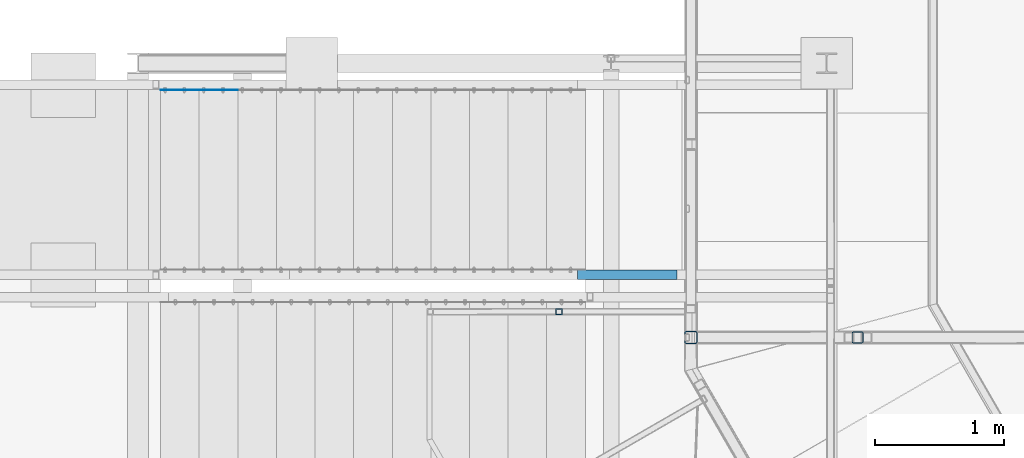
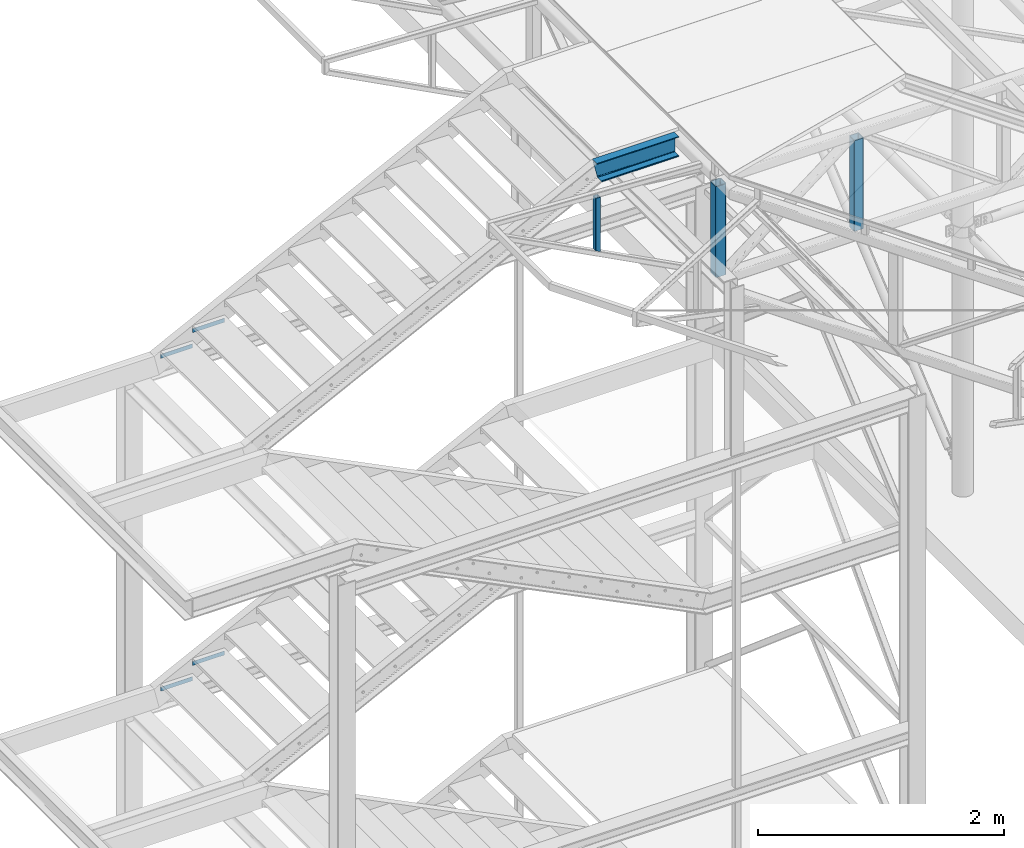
# One storey, part 69 of 132: 8 discrete accessories, 7 elements without a shape of their own.
"""IFC2X3 building model written with IfcOpenShell, lengths in millimetres."""

from ifc_helpers import new_model, si_unit, frame, origin_with_axes, origin_2d_with_axis, place, context, subcontext, project, spatial, rectangle, hollow_rectangle, u_section, extrude, clip, halfspace, material, type_object, element, aggregate, save


model = new_model("IFC2X3")

# Units and contexts
model_context = context("Model", 3, precision=1e-05, world=origin_with_axes())
body_context = subcontext(model_context, "Body", "Model", "MODEL_VIEW")
ifc_project = project(units=[si_unit("LENGTHUNIT", "METRE", prefix="MILLI"), si_unit("AREAUNIT", "SQUARE_METRE"), si_unit("VOLUMEUNIT", "CUBIC_METRE"), si_unit("MASSUNIT", "GRAM", prefix="KILO"), si_unit("TIMEUNIT", "SECOND"), si_unit("PLANEANGLEUNIT", "RADIAN"), si_unit("SOLIDANGLEUNIT", "STERADIAN"), si_unit("THERMODYNAMICTEMPERATUREUNIT", "DEGREE_CELSIUS"), si_unit("LUMINOUSINTENSITYUNIT", "LUMEN")], contexts=[model_context])

# Site, building, storey
site_placement = place(None, origin_with_axes())
site = spatial("IfcSite", under=ifc_project, at=site_placement, Name="Budowa", CompositionType="ELEMENT")
building_placement = place(site_placement, origin_with_axes())
building = spatial("IfcBuilding", under=site, at=building_placement, Name="Undefined", CompositionType="ELEMENT")
storey_placement = place(building_placement, origin_with_axes())
storey = spatial("IfcBuildingStorey", under=building, at=storey_placement, Name="Undefined", CompositionType="ELEMENT", Elevation=0.0)

# Assembly, discrete accessory
assembly_1_placement = place(storey_placement, origin_with_axes())
assembly_1 = element("IfcElementAssembly", 1, at=assembly_1_placement, inside=storey, Name="Steel Assembly", AssemblyPlace="NOTDEFINED", PredefinedType="RIGID_FRAME")
ifc_material_1 = material(Name="STEEL/S235")
discrete_accessory_type_1 = type_object("IfcDiscreteAccessoryType", Name="BEAM")
discrete_accessory_1_placement = place(assembly_1_placement, frame((-1025.0003815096, 9200.00000004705, 13878.9400283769), z_axis=(0.0, 1.0, 0.0), x_axis=(0.0, 0.0, -1.0)))
discrete_accessory_1 = element("IfcDiscreteAccessory", 2, at=discrete_accessory_1_placement, type_object=discrete_accessory_type_1, material=ifc_material_1, Name="BEAM", ObjectType="SHS50*4", context=body_context, shape_type="Clipping", body=[
    clip(clip(extrude(hollow_rectangle(XDim=50.0, YDim=50.0, WallThickness=4.0, InnerFilletRadius=4.0, OuterFilletRadius=8.0, at=origin_2d_with_axis()), frame((545.085010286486, 0.0, 0.0), z_axis=(-1.0, 0.0, 0.0), x_axis=(0.0, -1.0, 0.0)), (0.0, 0.0, 1.0), 559.36), halfspace(frame((536.667324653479, -11.620388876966, 1000.0), z_axis=(-0.885407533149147, -0.464815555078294, 0.0), x_axis=(0.464815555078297, -0.885407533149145, 0.0)), True)), halfspace(frame((0.185048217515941, 1.24844042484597, 1000.0), z_axis=(0.998752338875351, 0.0499376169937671, 0.0), x_axis=(-0.0499376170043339, 0.998752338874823, 2.09020387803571e-11)), True)),
])
aggregate(assembly_1, [discrete_accessory_1])

# Assembly, discrete accessories
assembly_2_placement = place(storey_placement, origin_with_axes())
assembly_2 = element("IfcElementAssembly", 3, at=assembly_2_placement, inside=storey, Name="Steel Assembly", AssemblyPlace="NOTDEFINED", PredefinedType="RIGID_FRAME")
discrete_accessory_2_placement = place(assembly_2_placement, frame((1295.09999996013, 9000.00000004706, 13780.0), z_axis=(1.0, 0.0, 0.0), x_axis=(0.0, 0.0, -1.0)))
discrete_accessory_2 = element("IfcDiscreteAccessory", 4, at=discrete_accessory_2_placement, type_object=discrete_accessory_type_1, material=ifc_material_1, Name="BEAM", ObjectType="SHS90*6", context=body_context, shape_type="Clipping", body=[
    clip(clip(extrude(hollow_rectangle(XDim=90.0, YDim=90.0, WallThickness=6.0, InnerFilletRadius=6.0, OuterFilletRadius=12.0, at=origin_2d_with_axis()), frame((900.0, 0.0, 0.0), z_axis=(-1.0, 0.0, 0.0), x_axis=(0.0, -1.0, 0.0)), (0.0, 0.0, 1.0), 900.0), halfspace(frame((900.0, 0.0, 1000.0), z_axis=(-1.0, 0.0, 0.0), x_axis=(0.0, -1.0, 0.0)), True)), halfspace(frame((0.0, 0.0, 1000.0), z_axis=(1.0, 0.0, 0.0), x_axis=(0.0, 1.0, 0.0)), True)),
])
discrete_accessory_3_placement = place(assembly_2_placement, frame((0.0999999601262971, 9000.00000004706, 13780.0), z_axis=(1.0, 0.0, 0.0), x_axis=(0.0, 0.0, -1.0)))
discrete_accessory_3 = element("IfcDiscreteAccessory", 5, at=discrete_accessory_3_placement, type_object=discrete_accessory_type_1, material=ifc_material_1, Name="BEAM", ObjectType="SHS100*8", context=body_context, shape_type="Clipping", body=[
    clip(clip(extrude(hollow_rectangle(XDim=100.0, YDim=100.0, WallThickness=8.0, InnerFilletRadius=8.0, OuterFilletRadius=16.0, at=origin_2d_with_axis()), frame((900.0, 0.0, 0.0), z_axis=(-1.0, 0.0, 0.0), x_axis=(0.0, -1.0, 0.0)), (0.0, 0.0, 1.0), 900.0), halfspace(frame((900.0, 0.0, 1000.0), z_axis=(-1.0, 0.0, 0.0), x_axis=(0.0, -1.0, 0.0)), True)), halfspace(frame((0.0, 0.0, 1000.0), z_axis=(1.0, 0.0, 0.0), x_axis=(0.0, 1.0, 0.0)), True)),
])
aggregate(assembly_2, [discrete_accessory_2, discrete_accessory_3])

# Assembly, discrete accessory
assembly_3_placement = place(storey_placement, origin_with_axes())
assembly_3 = element("IfcElementAssembly", 6, at=assembly_3_placement, inside=storey, Name="Steel Assembly", AssemblyPlace="NOTDEFINED", PredefinedType="RIGID_FRAME")
ifc_material_2 = material(Name="STEEL/S235JR")
discrete_accessory_type_2 = type_object("IfcDiscreteAccessoryType", Name="ANGLE")
discrete_accessory_4_placement = place(assembly_3_placement, frame((-3820.00000008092, 10923.5000000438, 12479.9999999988), z_axis=(0.0, -1.0, 0.0), x_axis=(1.0, 0.0, 0.0)))
discrete_accessory_4 = element("IfcDiscreteAccessory", 7, at=discrete_accessory_4_placement, type_object=discrete_accessory_type_2, material=ifc_material_2, Name="ANGLE", ObjectType="3*40", context=body_context, shape_type="SweptSolid", body=[
    extrude(rectangle(XDim=40.0, YDim=3.0, at=origin_2d_with_axis()), frame((300.0, 0.0, 0.0), z_axis=(-1.0, 0.0, 0.0), x_axis=(0.0, -1.0, 0.0)), (0.0, 0.0, 1.0), 300.0),
])
aggregate(assembly_3, [discrete_accessory_4])

assembly_4_placement = place(storey_placement, origin_with_axes())
assembly_4 = element("IfcElementAssembly", 8, at=assembly_4_placement, inside=storey, Name="Steel Assembly", AssemblyPlace="NOTDEFINED", PredefinedType="RIGID_FRAME")
discrete_accessory_5_placement = place(assembly_4_placement, frame((-4120.00000008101, 10923.5000000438, 12329.9999999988), z_axis=(0.0, -1.0, 0.0), x_axis=(1.0, 0.0, 0.0)))
discrete_accessory_5 = element("IfcDiscreteAccessory", 9, at=discrete_accessory_5_placement, type_object=discrete_accessory_type_2, material=ifc_material_2, Name="ANGLE", ObjectType="3*40", context=body_context, shape_type="SweptSolid", body=[
    extrude(rectangle(XDim=40.0, YDim=3.0, at=origin_2d_with_axis()), frame((300.0, 0.0, 0.0), z_axis=(-1.0, 0.0, 0.0), x_axis=(0.0, -1.0, 0.0)), (0.0, 0.0, 1.0), 300.0),
])
aggregate(assembly_4, [discrete_accessory_5])

assembly_5_placement = place(storey_placement, origin_with_axes())
assembly_5 = element("IfcElementAssembly", 10, at=assembly_5_placement, inside=storey, Name="Steel Assembly", AssemblyPlace="NOTDEFINED", PredefinedType="RIGID_FRAME")
discrete_accessory_6_placement = place(assembly_5_placement, frame((-3820.00000008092, 10923.5000000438, 9179.99999999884), z_axis=(0.0, -1.0, 0.0), x_axis=(1.0, 0.0, 0.0)))
discrete_accessory_6 = element("IfcDiscreteAccessory", 11, at=discrete_accessory_6_placement, type_object=discrete_accessory_type_2, material=ifc_material_2, Name="ANGLE", ObjectType="3*40", context=body_context, shape_type="SweptSolid", body=[
    extrude(rectangle(XDim=40.0, YDim=3.0, at=origin_2d_with_axis()), frame((300.0, 0.0, 0.0), z_axis=(-1.0, 0.0, 0.0), x_axis=(0.0, -1.0, 0.0)), (0.0, 0.0, 1.0), 300.0),
])
aggregate(assembly_5, [discrete_accessory_6])

assembly_6_placement = place(storey_placement, origin_with_axes())
assembly_6 = element("IfcElementAssembly", 12, at=assembly_6_placement, inside=storey, Name="Steel Assembly", AssemblyPlace="NOTDEFINED", PredefinedType="RIGID_FRAME")
discrete_accessory_7_placement = place(assembly_6_placement, frame((-4120.00000008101, 10923.5000000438, 9029.99999999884), z_axis=(0.0, -1.0, 0.0), x_axis=(1.0, 0.0, 0.0)))
discrete_accessory_7 = element("IfcDiscreteAccessory", 13, at=discrete_accessory_7_placement, type_object=discrete_accessory_type_2, material=ifc_material_2, Name="ANGLE", ObjectType="3*40", context=body_context, shape_type="SweptSolid", body=[
    extrude(rectangle(XDim=40.0, YDim=3.0, at=origin_2d_with_axis()), frame((300.0, 0.0, 0.0), z_axis=(-1.0, 0.0, 0.0), x_axis=(0.0, -1.0, 0.0)), (0.0, 0.0, 1.0), 300.0),
])
aggregate(assembly_6, [discrete_accessory_7])

assembly_7_placement = place(storey_placement, origin_with_axes())
assembly_7 = element("IfcElementAssembly", 14, at=assembly_7_placement, inside=storey, Name="Steel Assembly", AssemblyPlace="NOTDEFINED", PredefinedType="RIGID_FRAME")
discrete_accessory_type_3 = type_object("IfcDiscreteAccessoryType", Name="BELKA")
discrete_accessory_8_placement = place(assembly_7_placement, frame((-880.000000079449, 9487.50000004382, 13899.9999999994), z_axis=(0.0, 0.0, 1.0), x_axis=(1.0, 0.0, 0.0)))
discrete_accessory_8 = element("IfcDiscreteAccessory", 15, at=discrete_accessory_8_placement, type_object=discrete_accessory_type_3, material=ifc_material_1, Name="BELKA", ObjectType="UPN200", context=body_context, shape_type="Clipping", body=[
    clip(extrude(u_section(Depth=200.0, FlangeWidth=75.0, WebThickness=8.5, FlangeThickness=11.5, FilletRadius=11.5, EdgeRadius=6.0, at=origin_2d_with_axis()), frame((769.999999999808, 0.0, 0.0), z_axis=(-1.0, 0.0, 0.0), x_axis=(0.0, -1.0, 0.0)), (0.0, 0.0, 1.0), 770.24), halfspace(frame((3.68624523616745e-06, -37.5000000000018, 99.9999999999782), z_axis=(-0.97324898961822, 0.0, -0.229752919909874), x_axis=(0.0, -1.0, 0.0)), False)),
])
aggregate(assembly_7, [discrete_accessory_8])

save(model, "model.ifc")
